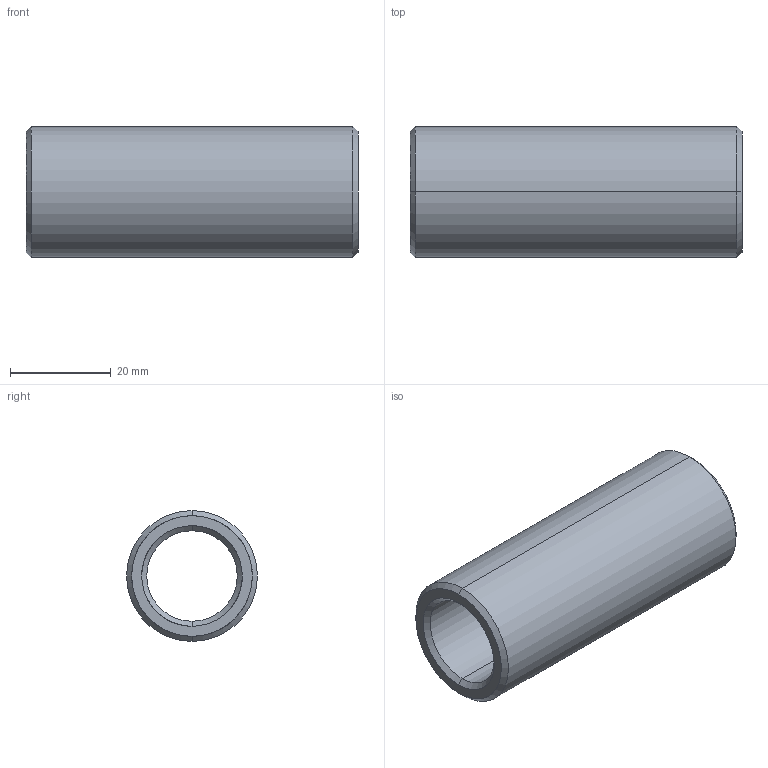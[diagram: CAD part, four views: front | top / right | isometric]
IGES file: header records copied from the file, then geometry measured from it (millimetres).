
Start section: START RECORD GO HERE.
Global section: file name: 352-18X66.igs; native system: DASSAULT SYSTEMES CATIA V5 R20 - www.3ds.com; preprocessor: CATIA Version 5 Release 20 ; author: Utente; organization: NB04-ASUS; date: 20210412.173907; units: millimetre
Bounding box: 66 x 26 x 26 mm (x, y, z)
Surface area: 9522.2 mm2 (no closed solid volume)
Topology: 0 solids, 0 shells, 14 faces, 88 edges, 88 vertices
Faces by surface type: revolution 12, plane 2
